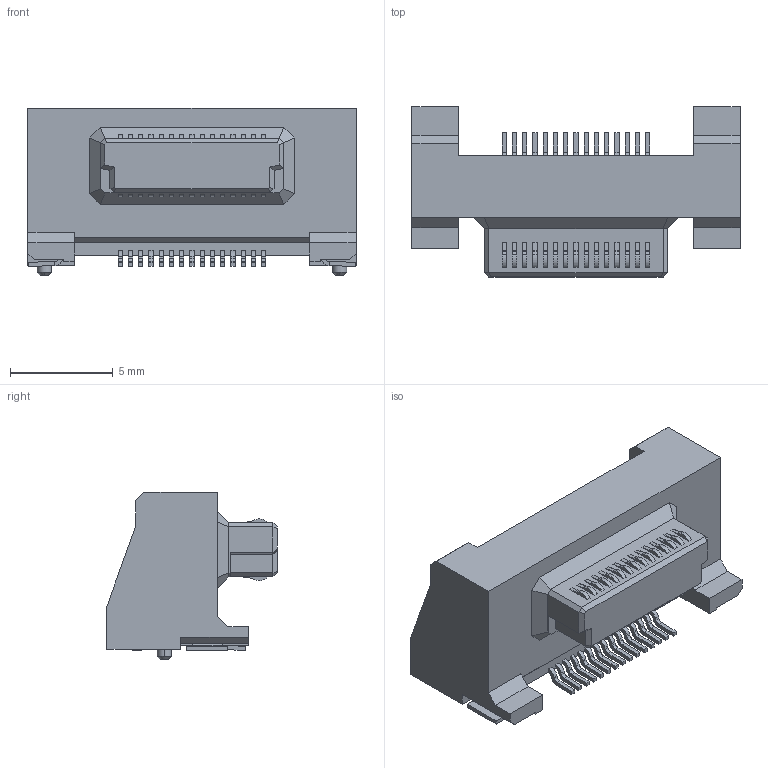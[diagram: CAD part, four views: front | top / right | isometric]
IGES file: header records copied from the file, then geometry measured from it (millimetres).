
Start section: Elysium IGES Interface
Global section: file name: C:\Users\1354\Desktop\DY11-030L.igs; native system: Creo Elements/Direct Modeling 19.0F  14-Feb-2017; preprocessor: Creo Element/Direct IGES_3D V2.2; author: Unknown; organization: Unknown; date: 20171130.160030; units: millimetre
Bounding box: 16 x 8.3 x 8.15 mm (x, y, z)
Volume: 475.4 mm3; surface area: 594 mm2
Topology: 1 solids, 1 shells, 572 faces, 1547 edges, 1012 vertices
Faces by surface type: bspline 572
